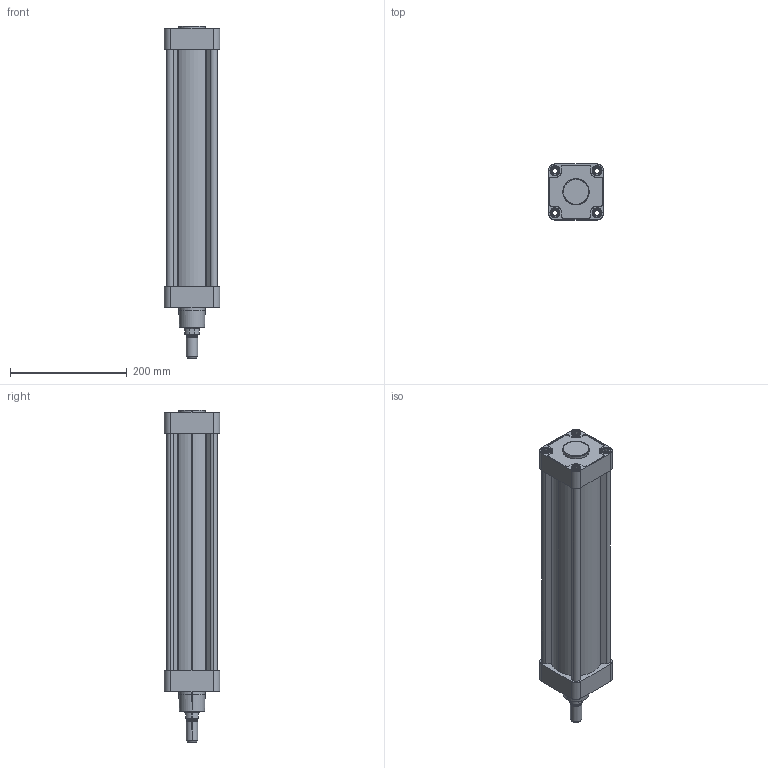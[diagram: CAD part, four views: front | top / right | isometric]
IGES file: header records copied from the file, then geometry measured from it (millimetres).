
Start section: SolidWorks IGES file using analytic representation for surfaces
Global section: file name: K:\Disegni Esecutivi\Cilindri\2_DISEGNI_cilindri_in_produzione\21_Cilindri blue air\1_CILINDRI SERIE BLUE AIR\E\E80\COMPLESSIVI E\EH0800000G\EH0800350G.igs; native system: SolidWorks 2013; preprocessor: SolidWorks 2013; author: Cad01; date: 140424.181012; units: millimetre
Bounding box: 95 x 95 x 568 mm (x, y, z)
Surface area: 279285 mm2 (no closed solid volume)
Topology: 0 solids, 0 shells, 445 faces, 4546 edges, 4546 vertices
Faces by surface type: revolution 263, bspline 182
